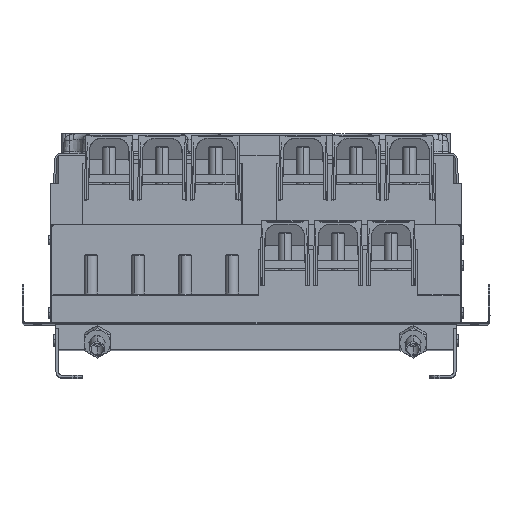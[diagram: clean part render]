
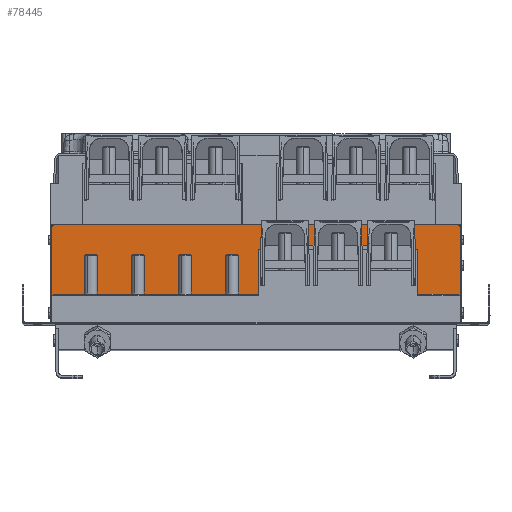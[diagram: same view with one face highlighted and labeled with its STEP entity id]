
A CAD part, top view. The second image highlights one B-rep face of the part: STEP entity #78445.
In plain terms, the highlighted planar face has unit normal (0, 0, 1).
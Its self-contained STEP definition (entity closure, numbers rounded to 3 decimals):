
#712 = EDGE_CURVE ( 'NONE', #18478, #32818, #82344, .T. ) ;
#2683 = ORIENTED_EDGE ( 'NONE', *, *, #4747, .T. ) ;
#4747 = EDGE_CURVE ( 'NONE', #59594, #46793, #21976, .T. ) ;
#6210 = CARTESIAN_POINT ( 'NONE',  ( -245., 35., 179. ) ) ;
#6828 = DIRECTION ( 'NONE',  ( 0., 1., 0. ) ) ;
#7460 = VECTOR ( 'NONE', #26103, 1000. ) ;
#9370 = CARTESIAN_POINT ( 'NONE',  ( 2.806, 35., 179. ) ) ;
#9482 = CARTESIAN_POINT ( 'NONE',  ( 245., 35., 179. ) ) ;
#9542 = CARTESIAN_POINT ( 'NONE',  ( -243., 119., 179. ) ) ;
#10625 = EDGE_CURVE ( 'NONE', #11387, #90340, #59522, .T. ) ;
#10876 = LINE ( 'NONE', #17559, #29544 ) ;
#10909 = VECTOR ( 'NONE', #45042, 1000. ) ;
#11387 = VERTEX_POINT ( 'NONE', #66041 ) ;
#11588 = ORIENTED_EDGE ( 'NONE', *, *, #39772, .T. ) ;
#11947 = EDGE_CURVE ( 'NONE', #32818, #26327, #52990, .T. ) ;
#12506 = DIRECTION ( 'NONE',  ( -0.017, -1., 0. ) ) ;
#12777 = CARTESIAN_POINT ( 'NONE',  ( 195.511, 35., 179. ) ) ;
#15265 = VECTOR ( 'NONE', #65902, 1000. ) ;
#15777 = VECTOR ( 'NONE', #84854, 1000. ) ;
#17465 = LINE ( 'NONE', #60040, #78823 ) ;
#17559 = CARTESIAN_POINT ( 'NONE',  ( -243., 119., 179. ) ) ;
#18056 = FACE_OUTER_BOUND ( 'NONE', #27686, .T. ) ;
#18439 = DIRECTION ( 'NONE',  ( 0., -1., 0. ) ) ;
#18478 = VERTEX_POINT ( 'NONE', #85309 ) ;
#18971 = VERTEX_POINT ( 'NONE', #9482 ) ;
#19194 = CARTESIAN_POINT ( 'NONE',  ( 5.351, 63.129, 179. ) ) ;
#20277 = CARTESIAN_POINT ( 'NONE',  ( 192.514, 89., 179. ) ) ;
#21548 = DIRECTION ( 'NONE',  ( 1., 0., 0. ) ) ;
#21695 = ORIENTED_EDGE ( 'NONE', *, *, #11947, .T. ) ;
#21976 = LINE ( 'NONE', #29189, #41191 ) ;
#22192 = VERTEX_POINT ( 'NONE', #12777 ) ;
#22567 = LINE ( 'NONE', #58904, #10909 ) ;
#26103 = DIRECTION ( 'NONE',  ( 0.707, -0.707, 0. ) ) ;
#26171 = DIRECTION ( 'NONE',  ( 1., 0., 0. ) ) ;
#26327 = VERTEX_POINT ( 'NONE', #67875 ) ;
#26962 = CARTESIAN_POINT ( 'NONE',  ( -247., 1., 179. ) ) ;
#27429 = EDGE_CURVE ( 'NONE', #46793, #39167, #48333, .T. ) ;
#27686 = EDGE_LOOP ( 'NONE', ( #48441, #77059, #64470, #21695, #73067, #11588, #49366, #76198, #90540, #41742, #33161, #61600, #2683, #75195, #30230, #72198 ) ) ;
#28241 = EDGE_CURVE ( 'NONE', #56978, #18478, #56821, .T. ) ;
#28270 = DIRECTION ( 'NONE',  ( 0., 0., -1. ) ) ;
#29031 = EDGE_CURVE ( 'NONE', #59594, #59896, #78679, .T. ) ;
#29189 = CARTESIAN_POINT ( 'NONE',  ( -245., 35., 179. ) ) ;
#29544 = VECTOR ( 'NONE', #26171, 1000. ) ;
#30122 = DIRECTION ( 'NONE',  ( 0.707, 0.707, 0. ) ) ;
#30230 = ORIENTED_EDGE ( 'NONE', *, *, #79182, .T. ) ;
#30265 = CARTESIAN_POINT ( 'NONE',  ( -243., 115., 179. ) ) ;
#30559 = CARTESIAN_POINT ( 'NONE',  ( 190.479, 89., 179. ) ) ;
#30692 = CARTESIAN_POINT ( 'NONE',  ( 2.806, 89., 179. ) ) ;
#31468 = EDGE_CURVE ( 'NONE', #51045, #54916, #69965, .T. ) ;
#31563 = CARTESIAN_POINT ( 'NONE',  ( 192.965, 63.129, 179. ) ) ;
#32044 = CARTESIAN_POINT ( 'NONE',  ( -247., 33., 179. ) ) ;
#32384 = CARTESIAN_POINT ( 'NONE',  ( 5.894, 94.2, 179. ) ) ;
#32818 = VERTEX_POINT ( 'NONE', #20277 ) ;
#32909 = CARTESIAN_POINT ( 'NONE',  ( -247., 31., 179. ) ) ;
#33161 = ORIENTED_EDGE ( 'NONE', *, *, #76454, .F. ) ;
#34695 = CARTESIAN_POINT ( 'NONE',  ( 245., 35., 179. ) ) ;
#36714 = VECTOR ( 'NONE', #6828, 1000. ) ;
#39167 = VERTEX_POINT ( 'NONE', #9370 ) ;
#39772 = EDGE_CURVE ( 'NONE', #22192, #18971, #92045, .T. ) ;
#41191 = VECTOR ( 'NONE', #30122, 1000. ) ;
#41256 = CARTESIAN_POINT ( 'NONE',  ( -247., 35., 179. ) ) ;
#41589 = AXIS2_PLACEMENT_3D ( 'NONE', #32909, #62052, #47691 ) ;
#41742 = ORIENTED_EDGE ( 'NONE', *, *, #77389, .F. ) ;
#42781 = LINE ( 'NONE', #34695, #7460 ) ;
#42935 = CARTESIAN_POINT ( 'NONE',  ( -247., 115., 179. ) ) ;
#44438 = EDGE_CURVE ( 'NONE', #26327, #22192, #17465, .T. ) ;
#45042 = DIRECTION ( 'NONE',  ( 0., -1., 0. ) ) ;
#45086 = CARTESIAN_POINT ( 'NONE',  ( 2.806, 35., 179. ) ) ;
#45309 = CARTESIAN_POINT ( 'NONE',  ( -44.533, 94.2, 179. ) ) ;
#46793 = VERTEX_POINT ( 'NONE', #6210 ) ;
#47691 = DIRECTION ( 'NONE',  ( 1., 0., 0. ) ) ;
#47881 = DIRECTION ( 'NONE',  ( 1., 0., 0. ) ) ;
#48333 = LINE ( 'NONE', #63173, #94606 ) ;
#48441 = ORIENTED_EDGE ( 'NONE', *, *, #49129, .F. ) ;
#49129 = EDGE_CURVE ( 'NONE', #56978, #54916, #70883, .T. ) ;
#49366 = ORIENTED_EDGE ( 'NONE', *, *, #67818, .T. ) ;
#50765 = VECTOR ( 'NONE', #85825, 1000. ) ;
#50794 = VECTOR ( 'NONE', #88224, 1000. ) ;
#51045 = VERTEX_POINT ( 'NONE', #30692 ) ;
#52010 = CARTESIAN_POINT ( 'NONE',  ( 247., 115., 179. ) ) ;
#52990 = LINE ( 'NONE', #30559, #58129 ) ;
#54107 = EDGE_CURVE ( 'NONE', #90340, #82498, #22567, .T. ) ;
#54378 = VECTOR ( 'NONE', #81865, 1000. ) ;
#54916 = VERTEX_POINT ( 'NONE', #74892 ) ;
#55257 = CIRCLE ( 'NONE', #82834, 4. ) ;
#56821 = LINE ( 'NONE', #45309, #15265 ) ;
#56978 = VERTEX_POINT ( 'NONE', #32384 ) ;
#58129 = VECTOR ( 'NONE', #81339, 1000. ) ;
#58904 = CARTESIAN_POINT ( 'NONE',  ( 247., 115., 179. ) ) ;
#59410 = DIRECTION ( 'NONE',  ( 1., 0., 0. ) ) ;
#59522 = CIRCLE ( 'NONE', #62825, 4. ) ;
#59594 = VERTEX_POINT ( 'NONE', #32044 ) ;
#59896 = VERTEX_POINT ( 'NONE', #42935 ) ;
#60040 = CARTESIAN_POINT ( 'NONE',  ( 195.511, 89., 179. ) ) ;
#61331 = DIRECTION ( 'NONE',  ( 0., 0., -1. ) ) ;
#61600 = ORIENTED_EDGE ( 'NONE', *, *, #29031, .F. ) ;
#62052 = DIRECTION ( 'NONE',  ( 0., 0., 1. ) ) ;
#62825 = AXIS2_PLACEMENT_3D ( 'NONE', #87170, #28270, #21548 ) ;
#63173 = CARTESIAN_POINT ( 'NONE',  ( -247., 35., 179. ) ) ;
#64470 = ORIENTED_EDGE ( 'NONE', *, *, #712, .T. ) ;
#65684 = LINE ( 'NONE', #45086, #50794 ) ;
#65902 = DIRECTION ( 'NONE',  ( 1., 0., 0. ) ) ;
#66041 = CARTESIAN_POINT ( 'NONE',  ( 243., 119., 179. ) ) ;
#67818 = EDGE_CURVE ( 'NONE', #18971, #82498, #42781, .T. ) ;
#67875 = CARTESIAN_POINT ( 'NONE',  ( 195.511, 89., 179. ) ) ;
#69965 = LINE ( 'NONE', #77653, #15777 ) ;
#70883 = LINE ( 'NONE', #19194, #72708 ) ;
#72198 = ORIENTED_EDGE ( 'NONE', *, *, #31468, .T. ) ;
#72708 = VECTOR ( 'NONE', #12506, 1000. ) ;
#73067 = ORIENTED_EDGE ( 'NONE', *, *, #44438, .T. ) ;
#74892 = CARTESIAN_POINT ( 'NONE',  ( 5.803, 89., 179. ) ) ;
#75195 = ORIENTED_EDGE ( 'NONE', *, *, #27429, .T. ) ;
#76198 = ORIENTED_EDGE ( 'NONE', *, *, #54107, .F. ) ;
#76454 = EDGE_CURVE ( 'NONE', #59896, #89015, #55257, .T. ) ;
#76488 = PLANE ( 'NONE',  #41589 ) ;
#77059 = ORIENTED_EDGE ( 'NONE', *, *, #28241, .T. ) ;
#77389 = EDGE_CURVE ( 'NONE', #89015, #11387, #10876, .T. ) ;
#77653 = CARTESIAN_POINT ( 'NONE',  ( 2.806, 89., 179. ) ) ;
#78445 = ADVANCED_FACE ( 'NONE', ( #18056 ), #76488, .T. ) ;
#78679 = LINE ( 'NONE', #26962, #36714 ) ;
#78823 = VECTOR ( 'NONE', #18439, 1000. ) ;
#79182 = EDGE_CURVE ( 'NONE', #39167, #51045, #65684, .T. ) ;
#81339 = DIRECTION ( 'NONE',  ( 1., 0., 0. ) ) ;
#81865 = DIRECTION ( 'NONE',  ( 0.017, -1., 0. ) ) ;
#82344 = LINE ( 'NONE', #31563, #54378 ) ;
#82498 = VERTEX_POINT ( 'NONE', #93225 ) ;
#82834 = AXIS2_PLACEMENT_3D ( 'NONE', #30265, #61331, #59410 ) ;
#84854 = DIRECTION ( 'NONE',  ( 1., 0., 0. ) ) ;
#85309 = CARTESIAN_POINT ( 'NONE',  ( 192.423, 94.2, 179. ) ) ;
#85825 = DIRECTION ( 'NONE',  ( 1., 0., 0. ) ) ;
#87170 = CARTESIAN_POINT ( 'NONE',  ( 243., 115., 179. ) ) ;
#88224 = DIRECTION ( 'NONE',  ( 0., 1., 0. ) ) ;
#89015 = VERTEX_POINT ( 'NONE', #9542 ) ;
#90340 = VERTEX_POINT ( 'NONE', #52010 ) ;
#90540 = ORIENTED_EDGE ( 'NONE', *, *, #10625, .F. ) ;
#92045 = LINE ( 'NONE', #41256, #50765 ) ;
#93225 = CARTESIAN_POINT ( 'NONE',  ( 247., 33., 179. ) ) ;
#94606 = VECTOR ( 'NONE', #47881, 1000. ) ;
